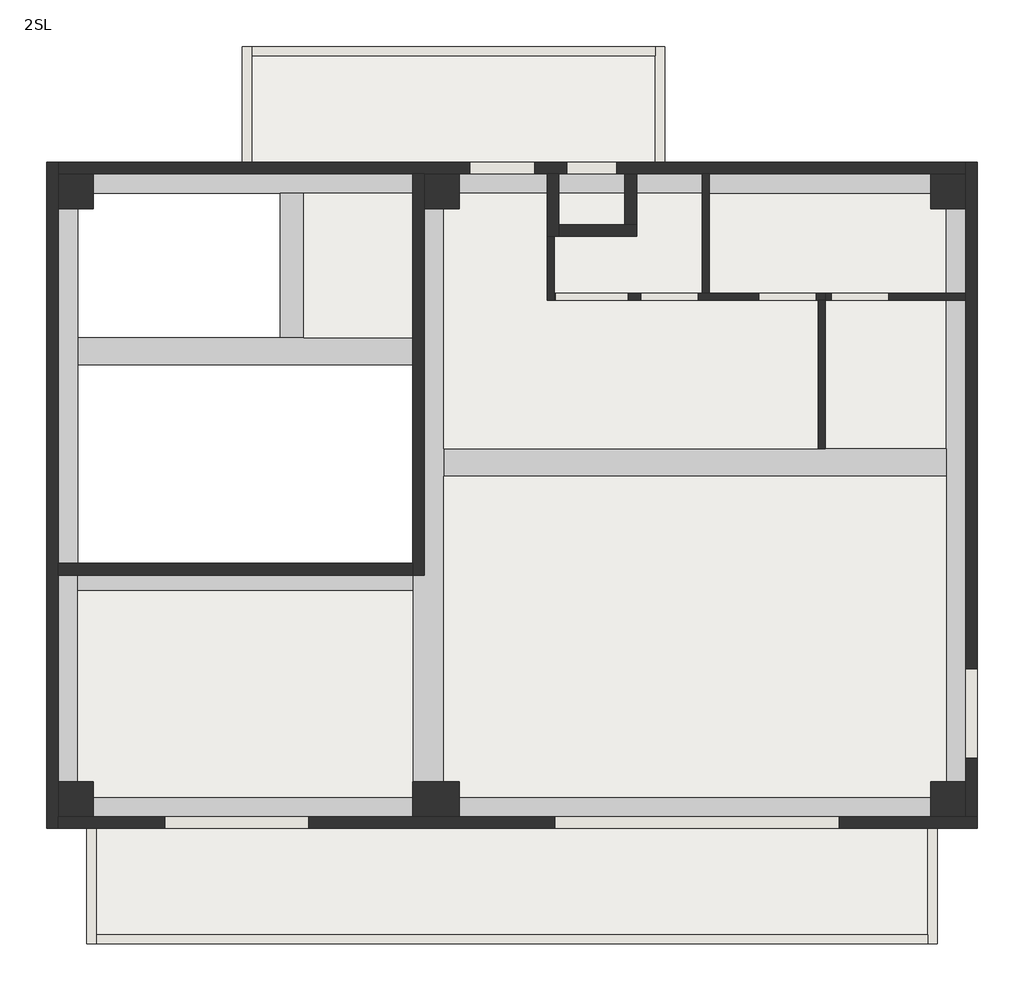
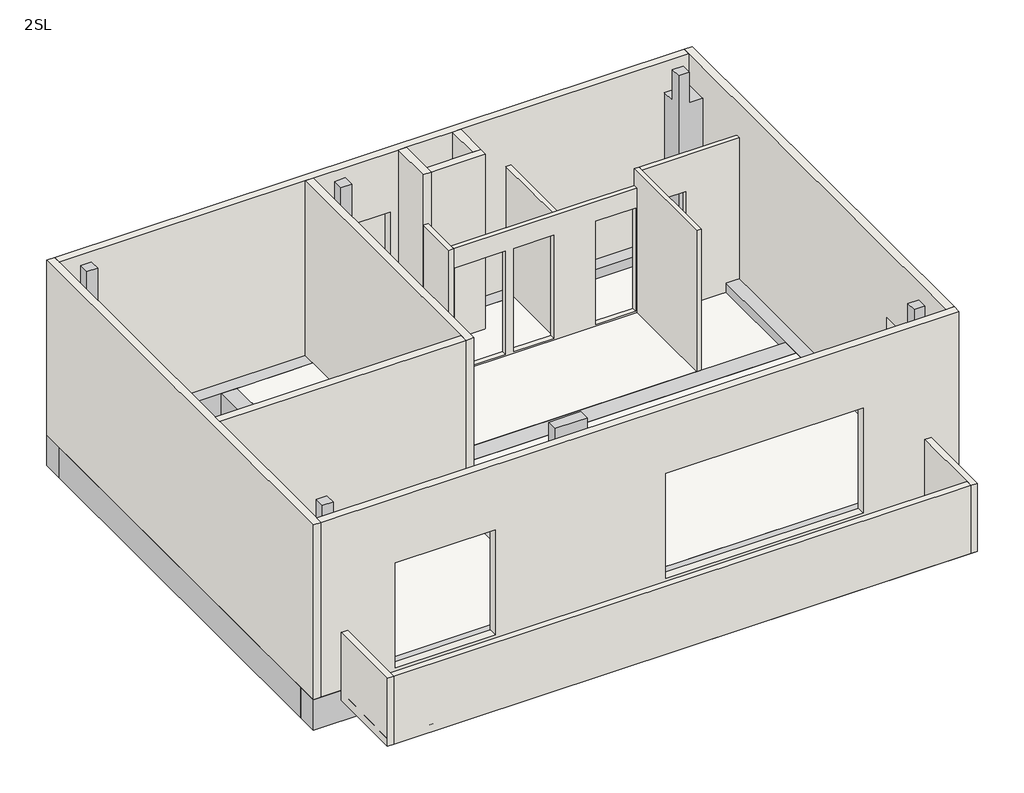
# One storey: 20 walls, 11 beams, 7 slabs, 6 columns.
"""IFC4 building model written with IfcOpenShell, lengths in millimetres."""

from ifc_helpers import new_model, si_unit, frame, origin, place, context, project, spatial, polyline, outline, extrude, faceted_brep, element, save

model = new_model("IFC4")

# Units and contexts
model_context = context("Model", 3, world=origin())
ifc_project = project(units=[si_unit("LENGTHUNIT", "METRE", prefix="MILLI")], contexts=[model_context])

# Site, building, storey
site = spatial("IfcSite", under=ifc_project)
building = spatial("IfcBuilding", under=site)
storey = spatial("IfcBuildingStorey", under=building, Name="2SL", Elevation=3120.0)

# Beams
placement = place(None, origin())
element("IfcBeam", 1, ObjectType="コンクリート-長方形梁 : B1-350x550", at=placement, inside=storey, context=model_context, shape_type="Brep", body=[
    faceted_brep([(325.0, 6225.0, 3120.0), (325.0, 5875.0, 3120.0), (4625.0, 5875.0, 3120.0), (4625.0, 6225.0, 3120.0), (3225.0, 6225.0, 3120.0), (2925.0, 6225.0, 3120.0), (325.0, 5875.0, 2570.0), (4625.0, 5875.0, 2570.0), (325.0, 6225.0, 2570.0), (4625.0, 6225.0, 2570.0)], [[[0, 1, 2, 3, 4, 5]], [[1, 6, 7, 2]], [[6, 8, 9, 7]], [[8, 0, 5, 4, 3, 9]], [[1, 0, 8, 6]], [[3, 2, 7, 9]]]),
])
element("IfcBeam", 2, ObjectType="コンクリート-長方形梁 : B1-350x550", at=placement, inside=storey, context=model_context, shape_type="SweptSolid", body=[
    extrude(outline(polyline([(325.0, 2975.0), (325.0, 3325.0), (4625.0, 3325.0), (4625.0, 2975.0), (325.0, 2975.0)])), frame((0.0, 0.0, 2570.0), z_axis=(0.0, 0.0, 1.0), x_axis=(1.0, 0.0, 0.0)), (0.0, 0.0, 1.0), 550.0),
])
element("IfcBeam", 3, ObjectType="コンクリート-長方形梁 : B1-350x550", at=placement, inside=storey, context=model_context, shape_type="SweptSolid", body=[
    extrude(outline(polyline([(11475.0, 4795.0), (11475.0, 4445.0), (5025.0, 4445.0), (5025.0, 4795.0), (11475.0, 4795.0)])), frame((0.0, 0.0, 2570.0), z_axis=(0.0, 0.0, 1.0), x_axis=(1.0, 0.0, 0.0)), (0.0, 0.0, 1.0), 550.0),
])
element("IfcBeam", 4, ObjectType="コンクリート-長方形梁 : B2-300x500", at=placement, inside=storey, context=model_context, shape_type="SweptSolid", body=[
    extrude(outline(polyline([(2925.0, 8075.0), (3225.0, 8075.0), (3225.0, 6225.0), (2925.0, 6225.0), (2925.0, 8075.0)])), frame((0.0, 0.0, 2620.0), z_axis=(0.0, 0.0, 1.0), x_axis=(1.0, 0.0, 0.0)), (0.0, 0.0, 1.0), 500.0),
])
element("IfcBeam", 5, ObjectType="コンクリート-長方形梁 : G1-400x600", at=placement, inside=storey, context=model_context, shape_type="Brep", body=[
    faceted_brep([(5025.0, -75.0, 3120.0), (5025.0, 325.0, 3120.0), (325.0, 325.0, 3120.0), (-75.0, 325.0, 3120.0), (-75.0, -75.0, 3120.0), (5025.0, -75.0, 2520.0), (-75.0, -75.0, 2520.0), (5025.0, 325.0, 2520.0), (-75.0, 325.0, 2520.0), (325.0, 325.0, 2520.0)], [[[0, 1, 2, 3, 4]], [[5, 0, 4, 6]], [[7, 5, 6, 8, 9]], [[1, 7, 9, 8, 3, 2]], [[1, 0, 5, 7]], [[4, 3, 8, 6]]]),
])
element("IfcBeam", 6, ObjectType="コンクリート-長方形梁 : G1-400x600", at=placement, inside=storey, context=model_context, shape_type="SweptSolid", body=[
    extrude(outline(polyline([(5025.0, -75.0), (5025.0, 325.0), (11475.0, 325.0), (11475.0, -75.0), (5025.0, -75.0)])), frame((0.0, 0.0, 2520.0), z_axis=(0.0, 0.0, 1.0), x_axis=(1.0, 0.0, 0.0)), (0.0, 0.0, 1.0), 600.0),
])
element("IfcBeam", 7, ObjectType="コンクリート-長方形梁 : G1-400x600", at=placement, inside=storey, context=model_context, shape_type="Brep", body=[
    faceted_brep([(11475.0, -75.0, 3120.0), (11875.0, -75.0, 3120.0), (11875.0, 8075.0, 3120.0), (11475.0, 8075.0, 3120.0), (11475.0, 325.0, 3120.0), (11875.0, -75.0, 2520.0), (11875.0, 8075.0, 2520.0), (11475.0, -75.0, 2520.0), (11475.0, 325.0, 2520.0), (11475.0, 8075.0, 2520.0)], [[[0, 1, 2, 3, 4]], [[1, 5, 6, 2]], [[5, 7, 8, 9, 6]], [[7, 0, 4, 3, 9, 8]], [[1, 0, 7, 5]], [[3, 2, 6, 9]]]),
])
element("IfcBeam", 8, ObjectType="コンクリート-長方形梁 : G1-400x600", at=placement, inside=storey, context=model_context, shape_type="Brep", body=[
    faceted_brep([(11875.0, 8075.0, 3120.0), (11875.0, 8475.0, 3120.0), (5025.0, 8475.0, 3120.0), (5025.0, 8075.0, 3120.0), (11475.0, 8075.0, 3120.0), (11875.0, 8475.0, 2520.0), (5025.0, 8475.0, 2520.0), (11875.0, 8075.0, 2520.0), (11475.0, 8075.0, 2520.0), (5025.0, 8075.0, 2520.0)], [[[0, 1, 2, 3, 4]], [[1, 5, 6, 2]], [[5, 7, 8, 9, 6]], [[7, 0, 4, 3, 9, 8]], [[1, 0, 7, 5]], [[3, 2, 6, 9]]]),
])
element("IfcBeam", 9, ObjectType="コンクリート-長方形梁 : G1-400x600", at=placement, inside=storey, context=model_context, shape_type="Brep", body=[
    faceted_brep([(-75.0, 8475.0, 3120.0), (-75.0, 8075.0, 3120.0), (325.0, 8075.0, 3120.0), (5025.0, 8075.0, 3120.0), (5025.0, 8475.0, 3120.0), (-75.0, 8475.0, 2520.0), (5025.0, 8475.0, 2520.0), (-75.0, 8075.0, 2520.0), (5025.0, 8075.0, 2520.0), (325.0, 8075.0, 2520.0)], [[[0, 1, 2, 3, 4]], [[5, 0, 4, 6]], [[7, 5, 6, 8, 9]], [[1, 7, 9, 8, 3, 2]], [[1, 0, 5, 7]], [[4, 3, 8, 6]]]),
])
element("IfcBeam", 10, ObjectType="コンクリート-長方形梁 : G1-400x600", at=placement, inside=storey, context=model_context, shape_type="SweptSolid", body=[
    extrude(outline(polyline([(325.0, 325.0), (-75.0, 325.0), (-75.0, 8075.0), (325.0, 8075.0), (325.0, 325.0)])), frame((0.0, 0.0, 2520.0), z_axis=(0.0, 0.0, 1.0), x_axis=(1.0, 0.0, 0.0)), (0.0, 0.0, 1.0), 600.0),
])
element("IfcBeam", 11, ObjectType="コンクリート-長方形梁 : G1-400x600", at=placement, inside=storey, context=model_context, shape_type="SweptSolid", body=[
    extrude(outline(polyline([(5025.0, 325.0), (4625.0, 325.0), (4625.0, 8075.0), (5025.0, 8075.0), (5025.0, 325.0)])), frame((0.0, 0.0, 2520.0), z_axis=(0.0, 0.0, 1.0), x_axis=(1.0, 0.0, 0.0)), (0.0, 0.0, 1.0), 600.0),
])

# Columns
element("IfcColumn", 12, ObjectType="角柱 : 600 x 600mm", at=placement, inside=storey, context=model_context, shape_type="Brep", body=[
    faceted_brep([(325.0, 7875.0, 6540.0), (525.0, 7875.0, 6540.0), (525.0, 8075.0, 6540.0), (325.0, 8075.0, 6540.0), (525.0, 8325.0, 3120.0), (525.0, 7875.0, 3120.0), (75.0, 7875.0, 3120.0), (75.0, 8325.0, 3120.0), (325.0, 7875.0, 5940.0), (75.0, 7875.0, 5940.0), (525.0, 8325.0, 5940.0), (525.0, 8075.0, 5940.0), (75.0, 8325.0, 5940.0), (325.0, 8075.0, 5940.0)], [[[0, 1, 2, 3]], [[4, 5, 6, 7]], [[5, 1, 0, 8, 9, 6]], [[1, 5, 4, 10, 11, 2]], [[4, 7, 12, 10]], [[7, 6, 9, 12]], [[9, 8, 13, 11, 10, 12]], [[8, 0, 3, 13]], [[11, 13, 3, 2]]]),
])
element("IfcColumn", 13, ObjectType="角柱 : 600 x 600mm", at=placement, inside=storey, context=model_context, shape_type="Brep", body=[
    faceted_brep([(525.0, 525.0, 6540.0), (325.0, 525.0, 6540.0), (325.0, 325.0, 6540.0), (525.0, 325.0, 6540.0), (75.0, 525.0, 3120.0), (525.0, 525.0, 3120.0), (525.0, 75.0, 3120.0), (75.0, 75.0, 3120.0), (525.0, 525.0, 3155.0), (75.0, 525.0, 3155.0), (75.0, 525.0, 5940.0), (325.0, 525.0, 5940.0), (525.0, 325.0, 5940.0), (525.0, 75.0, 5940.0), (525.0, 75.0, 3155.0), (75.0, 75.0, 5940.0), (325.0, 325.0, 5940.0)], [[[0, 1, 2, 3]], [[4, 5, 6, 7]], [[0, 8, 5, 4, 9, 10, 11, 1]], [[5, 8, 0, 3, 12, 13, 14, 6]], [[4, 7, 15, 10, 9]], [[7, 6, 14, 13, 15]], [[11, 10, 15, 13, 12, 16]], [[1, 11, 16, 2]], [[16, 12, 3, 2]]]),
])
element("IfcColumn", 14, ObjectType="角柱 : 600 x 600mm", at=placement, inside=storey, context=model_context, shape_type="Brep", body=[
    faceted_brep([(5225.0, 525.0, 6540.0), (5025.0, 525.0, 6540.0), (4625.0, 525.0, 6540.0), (4625.0, 325.0, 6540.0), (5025.0, 325.0, 6540.0), (5225.0, 325.0, 6540.0), (4625.0, 525.0, 3120.0), (5225.0, 525.0, 3120.0), (5225.0, 75.0, 3120.0), (4625.0, 75.0, 3120.0), (4625.0, 525.0, 5940.0), (4625.0, 75.0, 5940.0), (4625.0, 325.0, 5940.0), (5225.0, 325.0, 5940.0), (5225.0, 75.0, 5940.0), (5025.0, 325.0, 5940.0)], [[[0, 1, 2, 3, 4, 5]], [[6, 7, 8, 9]], [[2, 1, 0, 7, 6, 10]], [[2, 10, 6, 9, 11, 12, 3]], [[7, 0, 5, 13, 14, 8]], [[9, 8, 14, 11]], [[12, 11, 14, 13, 15]], [[12, 15, 13, 5, 4, 3]]]),
])
element("IfcColumn", 15, ObjectType="角柱 : 600 x 600mm", at=placement, inside=storey, context=model_context, shape_type="Brep", body=[
    faceted_brep([(11275.0, 525.0, 6540.0), (11275.0, 325.0, 6540.0), (11475.0, 325.0, 6540.0), (11475.0, 525.0, 6540.0), (11275.0, 75.0, 3120.0), (11275.0, 525.0, 3120.0), (11725.0, 525.0, 3120.0), (11725.0, 75.0, 3120.0), (11475.0, 525.0, 5940.0), (11725.0, 525.0, 5940.0), (11275.0, 75.0, 5940.0), (11275.0, 325.0, 5940.0), (11725.0, 75.0, 5940.0), (11475.0, 325.0, 5940.0)], [[[0, 1, 2, 3]], [[4, 5, 6, 7]], [[5, 0, 3, 8, 9, 6]], [[0, 5, 4, 10, 11, 1]], [[4, 7, 12, 10]], [[7, 6, 9, 12]], [[11, 10, 12, 9, 8, 13]], [[1, 11, 13, 2]], [[13, 8, 3, 2]]]),
])
element("IfcColumn", 16, ObjectType="角柱 : 600 x 600mm", at=placement, inside=storey, context=model_context, shape_type="Brep", body=[
    faceted_brep([(11275.0, 8075.0, 6540.0), (11275.0, 7875.0, 6540.0), (11475.0, 7875.0, 6540.0), (11475.0, 8075.0, 6540.0), (11725.0, 7875.0, 3120.0), (11275.0, 7875.0, 3120.0), (11275.0, 8325.0, 3120.0), (11725.0, 8325.0, 3120.0), (11275.0, 8075.0, 5940.0), (11275.0, 8325.0, 5940.0), (11725.0, 7875.0, 5940.0), (11475.0, 7875.0, 5940.0), (11725.0, 8325.0, 5940.0), (11475.0, 8075.0, 5940.0)], [[[0, 1, 2, 3]], [[4, 5, 6, 7]], [[5, 1, 0, 8, 9, 6]], [[1, 5, 4, 10, 11, 2]], [[4, 7, 12, 10]], [[7, 6, 9, 12]], [[9, 8, 13, 11, 10, 12]], [[8, 0, 3, 13]], [[11, 13, 3, 2]]]),
])
element("IfcColumn", 17, ObjectType="角柱 : 600 x 600mm", at=placement, inside=storey, context=model_context, shape_type="Brep", body=[
    faceted_brep([(5225.0, 7875.0, 6540.0), (5225.0, 8075.0, 6540.0), (5025.0, 8075.0, 6540.0), (5025.0, 7875.0, 6540.0), (5225.0, 8325.0, 3120.0), (5225.0, 7875.0, 3120.0), (4775.0, 7875.0, 3120.0), (4775.0, 8325.0, 3120.0), (5025.0, 7875.0, 5940.0), (4775.0, 7875.0, 5940.0), (5225.0, 8325.0, 5940.0), (5225.0, 8075.0, 5940.0), (4775.0, 8325.0, 5940.0), (5025.0, 8075.0, 5940.0)], [[[0, 1, 2, 3]], [[4, 5, 6, 7]], [[5, 0, 3, 8, 9, 6]], [[0, 5, 4, 10, 11, 1]], [[4, 7, 12, 10]], [[7, 6, 9, 12]], [[11, 10, 12, 9, 8, 13]], [[1, 11, 13, 2]], [[13, 8, 3, 2]]]),
])

# Slabs
element("IfcSlab", 18, ObjectType="一般180mm", at=placement, inside=storey, context=model_context, shape_type="SweptSolid", body=[
    extrude(outline(polyline([(4625.0, 2975.0), (4625.0, 325.0), (525.0, 325.0), (525.0, 525.0), (325.0, 525.0), (325.0, 2975.0), (4625.0, 2975.0)])), frame((0.0, 0.0, 2940.0), z_axis=(0.0, 0.0, 1.0), x_axis=(1.0, 0.0, 0.0)), (0.0, 0.0, 1.0), 180.0),
])
element("IfcSlab", 19, ObjectType="一般180mm", at=placement, inside=storey, context=model_context, shape_type="SweptSolid", body=[
    extrude(outline(polyline([(5025.0, 525.0), (5025.0, 4445.0), (11475.0, 4445.0), (11475.0, 525.0), (11275.0, 525.0), (11275.0, 325.0), (5225.0, 325.0), (5225.0, 525.0), (5025.0, 525.0)])), frame((0.0, 0.0, 2940.0), z_axis=(0.0, 0.0, 1.0), x_axis=(1.0, 0.0, 0.0)), (0.0, 0.0, 1.0), 180.0),
])
element("IfcSlab", 20, ObjectType="一般180mm", at=placement, inside=storey, context=model_context, shape_type="SweptSolid", body=[
    extrude(outline(polyline([(5225.0, 7875.0), (5225.0, 8075.0), (8430.0, 8075.0), (8430.0, 6795.0), (9920.0, 6795.0), (9920.0, 4795.0), (5025.0, 4795.0), (5025.0, 7875.0), (5225.0, 7875.0)])), frame((0.0, 0.0, 2940.0), z_axis=(0.0, 0.0, 1.0), x_axis=(1.0, 0.0, 0.0)), (0.0, 0.0, 1.0), 180.0),
])
element("IfcSlab", 21, ObjectType="一般180mm", at=placement, inside=storey, context=model_context, shape_type="SweptSolid", body=[
    extrude(outline(polyline([(11275.0, 7875.0), (11475.0, 7875.0), (11475.0, 4795.0), (9560.0, 4795.0), (9560.0, 6435.0), (8070.0, 6435.0), (8070.0, 8075.0), (11275.0, 8075.0), (11275.0, 7875.0)])), frame((0.0, 0.0, 2760.0), z_axis=(0.0, 0.0, 1.0), x_axis=(1.0, 0.0, 0.0)), (0.0, 0.0, 1.0), 180.0),
])
element("IfcSlab", 22, ObjectType="一般180mm", at=placement, inside=storey, context=model_context, shape_type="SweptSolid", body=[
    extrude(outline(polyline([(-75.0, 2925.0), (-1560.0, 2925.0), (-1560.0, 3075.0), (-75.0, 3105.0), (-75.0, 2925.0)])), frame((440.0, 0.0, 0.0), z_axis=(1.0, 0.0, 0.0), x_axis=(0.0, 1.0, 0.0)), (0.0, 0.0, 1.0), 10920.0),
])
element("IfcSlab", 23, ObjectType="一般180mm", at=placement, inside=storey, context=model_context, shape_type="SweptSolid", body=[
    extrude(outline(polyline([(9960.0, 2925.0), (8475.0, 2925.0), (8475.0, 3105.0), (9960.0, 3075.0), (9960.0, 2925.0)])), frame((2440.0, 0.0, 0.0), z_axis=(1.0, 0.0, 0.0), x_axis=(0.0, 1.0, 0.0)), (0.0, 0.0, 1.0), 5420.0),
])
element("IfcSlab", 24, ObjectType="一般180mm", at=placement, inside=storey, context=model_context, shape_type="SweptSolid", body=[
    extrude(outline(polyline([(3225.0, 8075.0), (4625.0, 8075.0), (4625.0, 6225.0), (3225.0, 6225.0), (3225.0, 8075.0)])), frame((0.0, 0.0, 2940.0), z_axis=(0.0, 0.0, 1.0), x_axis=(1.0, 0.0, 0.0)), (0.0, 0.0, 1.0), 180.0),
])

# Walls
element("IfcWall", 25, ObjectType="標準-120mm", at=placement, inside=storey, context=model_context, shape_type="Brep", body=[
    faceted_brep([(440.0, -75.0, 2925.0), (440.0, -1560.0, 2925.0), (440.0, -1560.0, 4255.0), (440.0, -75.0, 4255.0), (560.0, -75.0, 2925.0), (560.0, -75.0, 4255.0), (560.0, -1440.0, 4255.0), (560.0, -1560.0, 4255.0), (560.0, -1560.0, 2925.0), (560.0, -1440.0, 2925.0)], [[[0, 1, 2, 3]], [[4, 5, 6, 7, 8, 9]], [[1, 0, 4, 9, 8]], [[3, 2, 7, 6, 5]], [[2, 1, 8, 7]], [[0, 3, 5, 4]]]),
])
element("IfcWall", 26, ObjectType="標準-120mm", at=placement, inside=storey, context=model_context, shape_type="Brep", body=[
    faceted_brep([(11240.0, -75.0, 2925.0), (11240.0, -1440.0, 2925.0), (11240.0, -1560.0, 2925.0), (11240.0, -1560.0, 4255.0), (11240.0, -1440.0, 4255.0), (11240.0, -75.0, 4255.0), (11360.0, -75.0, 2925.0), (11360.0, -75.0, 4255.0), (11360.0, -1560.0, 4255.0), (11360.0, -1560.0, 2925.0)], [[[0, 1, 2, 3, 4, 5]], [[6, 7, 8, 9]], [[2, 1, 0, 6, 9]], [[5, 4, 3, 8, 7]], [[3, 2, 9, 8]], [[0, 5, 7, 6]]]),
])
element("IfcWall", 27, ObjectType="標準-120mm", at=placement, inside=storey, context=model_context, shape_type="SweptSolid", body=[
    extrude(outline(polyline([(560.0, -1440.0), (11240.0, -1440.0), (11240.0, -1560.0), (560.0, -1560.0), (560.0, -1440.0)])), frame((0.0, 0.0, 2925.0), z_axis=(0.0, 0.0, 1.0), x_axis=(1.0, 0.0, 0.0)), (0.0, 0.0, 1.0), 1330.0),
])
element("IfcWall", 28, ObjectType="標準-120mm", at=placement, inside=storey, context=model_context, shape_type="Brep", body=[
    faceted_brep([(2560.0, 8475.0, 2925.0), (2560.0, 9840.0, 2925.0), (2560.0, 9960.0, 2925.0), (2560.0, 9960.0, 4255.0), (2560.0, 9840.0, 4255.0), (2560.0, 8475.0, 4255.0), (2440.0, 8475.0, 2925.0), (2440.0, 8475.0, 4255.0), (2440.0, 9960.0, 4255.0), (2440.0, 9960.0, 2925.0)], [[[0, 1, 2, 3, 4, 5]], [[6, 7, 8, 9]], [[2, 1, 0, 6, 9]], [[5, 4, 3, 8, 7]], [[3, 2, 9, 8]], [[0, 5, 7, 6]]]),
])
element("IfcWall", 29, ObjectType="標準-120mm", at=placement, inside=storey, context=model_context, shape_type="Brep", body=[
    faceted_brep([(7860.0, 8475.0, 2925.0), (7860.0, 9960.0, 2925.0), (7860.0, 9960.0, 4255.0), (7860.0, 8475.0, 4255.0), (7740.0, 8475.0, 2925.0), (7740.0, 8475.0, 4255.0), (7740.0, 9840.0, 4255.0), (7740.0, 9960.0, 4255.0), (7740.0, 9960.0, 2925.0), (7740.0, 9840.0, 2925.0)], [[[0, 1, 2, 3]], [[4, 5, 6, 7, 8, 9]], [[1, 0, 4, 9, 8]], [[3, 2, 7, 6, 5]], [[2, 1, 8, 7]], [[0, 3, 5, 4]]]),
])
element("IfcWall", 30, ObjectType="標準-120mm", at=placement, inside=storey, context=model_context, shape_type="SweptSolid", body=[
    extrude(outline(polyline([(7740.0, 9840.0), (2560.0, 9840.0), (2560.0, 9960.0), (7740.0, 9960.0), (7740.0, 9840.0)])), frame((0.0, 0.0, 2925.0), z_axis=(0.0, 0.0, 1.0), x_axis=(1.0, 0.0, 0.0)), (0.0, 0.0, 1.0), 1330.0),
])
element("IfcWall", 31, ObjectType="標準-150mm", at=placement, inside=storey, context=model_context, shape_type="Brep", body=[
    faceted_brep([(-75.0, 8475.0, 3120.0), (-75.0, -75.0, 3120.0), (-75.0, -75.0, 6540.0), (-75.0, 8475.0, 6540.0), (75.0, 8475.0, 3120.0), (75.0, 8475.0, 6540.0), (75.0, 8325.0, 6540.0), (75.0, 3325.0, 6540.0), (75.0, 3175.0, 6540.0), (75.0, 75.0, 6540.0), (75.0, -75.0, 6540.0), (75.0, -75.0, 3120.0), (75.0, 75.0, 3120.0), (75.0, 525.0, 3120.0), (75.0, 3175.0, 3120.0), (75.0, 3325.0, 3120.0), (75.0, 7875.0, 3120.0), (75.0, 8325.0, 3120.0)], [[[0, 1, 2, 3]], [[4, 5, 6, 7, 8, 9, 10, 11, 12, 13, 14, 15, 16, 17]], [[1, 0, 4, 17, 16, 15, 14, 13, 12, 11]], [[3, 2, 10, 9, 8, 7, 6, 5]], [[2, 1, 11, 10]], [[0, 3, 5, 4]]]),
])
element("IfcWall", 32, ObjectType="標準-150mm", at=placement, inside=storey, context=model_context, shape_type="Brep", body=[
    faceted_brep([(75.0, -75.0, 3120.0), (11875.0, -75.0, 3120.0), (11875.0, -75.0, 6540.0), (75.0, -75.0, 6540.0), (10100.0, -75.0, 3215.0), (6450.0, -75.0, 3215.0), (6450.0, -75.0, 5265.0), (10100.0, -75.0, 5265.0), (1440.0, -75.0, 5265.0), (3290.0, -75.0, 5265.0), (3290.0, -75.0, 3215.0), (1440.0, -75.0, 3215.0), (75.0, 75.0, 3120.0), (75.0, 75.0, 5940.0), (75.0, 75.0, 6540.0), (11725.0, 75.0, 6540.0), (11875.0, 75.0, 6540.0), (11875.0, 75.0, 3120.0), (11725.0, 75.0, 3120.0), (11275.0, 75.0, 3120.0), (5225.0, 75.0, 3120.0), (4625.0, 75.0, 3120.0), (525.0, 75.0, 3120.0), (10100.0, 75.0, 3215.0), (10100.0, 75.0, 5265.0), (6450.0, 75.0, 5265.0), (6450.0, 75.0, 3215.0), (1440.0, 75.0, 5265.0), (1440.0, 75.0, 3215.0), (3290.0, 75.0, 3215.0), (3290.0, 75.0, 5265.0)], [[[0, 1, 2, 3], [4, 5, 6, 7], [8, 9, 10, 11]], [[12, 13, 14, 15, 16, 17, 18, 19, 20, 21, 22], [23, 24, 25, 26], [27, 28, 29, 30]], [[1, 0, 12, 22, 21, 20, 19, 18, 17]], [[3, 2, 16, 15, 14]], [[0, 3, 14, 13, 12]], [[2, 1, 17, 16]], [[24, 23, 4, 7]], [[25, 24, 7, 6]], [[26, 25, 6, 5]], [[23, 26, 5, 4]], [[28, 27, 8, 11]], [[29, 28, 11, 10]], [[30, 29, 10, 9]], [[27, 30, 9, 8]]]),
])
element("IfcWall", 33, ObjectType="標準-150mm", at=placement, inside=storey, context=model_context, shape_type="Brep", body=[
    faceted_brep([(11875.0, 75.0, 3120.0), (11875.0, 8475.0, 3120.0), (11875.0, 8475.0, 6540.0), (11875.0, 75.0, 6540.0), (11875.0, 825.0, 5230.0), (11875.0, 1975.0, 5230.0), (11875.0, 1975.0, 3980.0), (11875.0, 825.0, 3980.0), (11725.0, 75.0, 3120.0), (11725.0, 75.0, 5940.0), (11725.0, 75.0, 6540.0), (11725.0, 8325.0, 6540.0), (11725.0, 8475.0, 6540.0), (11725.0, 8475.0, 3120.0), (11725.0, 8325.0, 3120.0), (11725.0, 7875.0, 3120.0), (11725.0, 525.0, 3120.0), (11725.0, 825.0, 5230.0), (11725.0, 825.0, 3980.0), (11725.0, 1975.0, 3980.0), (11725.0, 1975.0, 5230.0)], [[[0, 1, 2, 3], [4, 5, 6, 7]], [[8, 9, 10, 11, 12, 13, 14, 15, 16], [17, 18, 19, 20]], [[1, 0, 8, 16, 15, 14, 13]], [[3, 2, 12, 11, 10]], [[0, 3, 10, 9, 8]], [[2, 1, 13, 12]], [[18, 17, 4, 7]], [[19, 18, 7, 6]], [[20, 19, 6, 5]], [[17, 20, 5, 4]]]),
])
element("IfcWall", 34, ObjectType="標準-150mm", at=placement, inside=storey, context=model_context, shape_type="Brep", body=[
    faceted_brep([(11725.0, 8475.0, 3120.0), (75.0, 8475.0, 3120.0), (75.0, 8475.0, 6540.0), (11725.0, 8475.0, 6540.0), (6195.0, 8475.0, 5375.0), (5355.0, 8475.0, 5375.0), (5355.0, 8475.0, 3155.0), (6195.0, 8475.0, 3155.0), (7245.0, 8475.0, 5375.0), (6605.0, 8475.0, 5375.0), (6605.0, 8475.0, 3155.0), (7245.0, 8475.0, 3155.0), (11725.0, 8325.0, 3120.0), (11725.0, 8325.0, 5940.0), (11725.0, 8325.0, 6540.0), (7500.0, 8325.0, 6540.0), (7350.0, 8325.0, 6540.0), (6500.0, 8325.0, 6540.0), (6350.0, 8325.0, 6540.0), (4775.0, 8325.0, 6540.0), (4625.0, 8325.0, 6540.0), (75.0, 8325.0, 6540.0), (75.0, 8325.0, 5940.0), (75.0, 8325.0, 3120.0), (525.0, 8325.0, 3120.0), (4625.0, 8325.0, 3120.0), (4775.0, 8325.0, 3120.0), (5225.0, 8325.0, 3120.0), (6350.0, 8325.0, 3120.0), (6500.0, 8325.0, 3120.0), (7350.0, 8325.0, 3120.0), (7500.0, 8325.0, 3120.0), (8340.0, 8325.0, 3120.0), (8430.0, 8325.0, 3120.0), (11275.0, 8325.0, 3120.0), (6195.0, 8325.0, 5375.0), (6195.0, 8325.0, 3155.0), (5355.0, 8325.0, 3155.0), (5355.0, 8325.0, 5375.0), (7245.0, 8325.0, 5375.0), (7245.0, 8325.0, 3155.0), (6605.0, 8325.0, 3155.0), (6605.0, 8325.0, 5375.0)], [[[0, 1, 2, 3], [4, 5, 6, 7], [8, 9, 10, 11]], [[12, 13, 14, 15, 16, 17, 18, 19, 20, 21, 22, 23, 24, 25, 26, 27, 28, 29, 30, 31, 32, 33, 34], [35, 36, 37, 38], [39, 40, 41, 42]], [[1, 0, 12, 34, 33, 32, 31, 30, 29, 28, 27, 26, 25, 24, 23]], [[3, 2, 21, 20, 19, 18, 17, 16, 15, 14]], [[0, 3, 14, 13, 12]], [[2, 1, 23, 22, 21]], [[36, 35, 4, 7]], [[37, 36, 7, 6]], [[38, 37, 6, 5]], [[35, 38, 5, 4]], [[40, 39, 8, 11]], [[41, 40, 11, 10]], [[42, 41, 10, 9]], [[39, 42, 9, 8]]]),
])
element("IfcWall", 35, ObjectType="標準-150mm", at=placement, inside=storey, context=model_context, shape_type="Brep", body=[
    faceted_brep([(4625.0, 8325.0, 3120.0), (4625.0, 3325.0, 3120.0), (4625.0, 3175.0, 3120.0), (4625.0, 3175.0, 6540.0), (4625.0, 3325.0, 6540.0), (4625.0, 8325.0, 6540.0), (4775.0, 8325.0, 3120.0), (4775.0, 8325.0, 5940.0), (4775.0, 8325.0, 6540.0), (4775.0, 3175.0, 6540.0), (4775.0, 3175.0, 3120.0), (4775.0, 7875.0, 3120.0)], [[[0, 1, 2, 3, 4, 5]], [[6, 7, 8, 9, 10, 11]], [[2, 1, 0, 6, 11, 10]], [[5, 4, 3, 9, 8]], [[2, 10, 9, 3]], [[0, 5, 8, 7, 6]]]),
])
element("IfcWall", 36, ObjectType="標準-150mm", at=placement, inside=storey, context=model_context, shape_type="SweptSolid", body=[
    extrude(outline(polyline([(75.0, 3325.0), (4625.0, 3325.0), (4625.0, 3175.0), (75.0, 3175.0), (75.0, 3325.0)])), frame((0.0, 0.0, 3120.0), z_axis=(0.0, 0.0, 1.0), x_axis=(1.0, 0.0, 0.0)), (0.0, 0.0, 1.0), 3420.0),
])
element("IfcWall", 37, ObjectType="標準-150mm", at=placement, inside=storey, context=model_context, shape_type="Brep", body=[
    faceted_brep([(6350.0, 8325.0, 3120.0), (6350.0, 7525.0, 3120.0), (6350.0, 7525.0, 6540.0), (6350.0, 8325.0, 6540.0), (6500.0, 8325.0, 3120.0), (6500.0, 8325.0, 6540.0), (6500.0, 7675.0, 6540.0), (6500.0, 7525.0, 6540.0), (6500.0, 7525.0, 3120.0), (6500.0, 7675.0, 3120.0), (6440.0, 7525.0, 3120.0)], [[[0, 1, 2, 3]], [[4, 5, 6, 7, 8, 9]], [[1, 0, 4, 9, 8, 10]], [[3, 2, 7, 6, 5]], [[0, 3, 5, 4]], [[1, 10, 8, 7, 2]]]),
])
element("IfcWall", 38, ObjectType="標準-150mm", at=placement, inside=storey, context=model_context, shape_type="Brep", body=[
    faceted_brep([(6500.0, 7525.0, 6540.0), (6500.0, 7525.0, 3120.0), (7500.0, 7525.0, 3120.0), (7500.0, 7525.0, 3155.0), (7500.0, 7525.0, 5555.0), (7500.0, 7525.0, 6540.0), (6500.0, 7675.0, 3120.0), (6500.0, 7675.0, 6540.0), (7350.0, 7675.0, 6540.0), (7500.0, 7675.0, 6540.0), (7500.0, 7675.0, 3120.0), (7350.0, 7675.0, 3120.0)], [[[0, 1, 2, 3, 4, 5]], [[6, 7, 8, 9, 10, 11]], [[2, 1, 6, 11, 10]], [[0, 5, 9, 8, 7]], [[2, 10, 9, 5, 4, 3]], [[0, 7, 6, 1]]]),
])
element("IfcWall", 39, ObjectType="標準-150mm", at=placement, inside=storey, context=model_context, shape_type="SweptSolid", body=[
    extrude(outline(polyline([(7500.0, 8325.0), (7500.0, 7675.0), (7350.0, 7675.0), (7350.0, 8325.0), (7500.0, 8325.0)])), frame((0.0, 0.0, 3120.0), z_axis=(0.0, 0.0, 1.0), x_axis=(1.0, 0.0, 0.0)), (0.0, 0.0, 1.0), 3420.0),
])
element("IfcWall", 40, ObjectType="標準-90mm", at=placement, inside=storey, context=model_context, shape_type="Brep", body=[
    faceted_brep([(6350.0, 7525.0, 3120.0), (6350.0, 6705.0, 3120.0), (6350.0, 6705.0, 5555.0), (6350.0, 7525.0, 5555.0), (6440.0, 7525.0, 3120.0), (6440.0, 7525.0, 5555.0), (6440.0, 6795.0, 5555.0), (6440.0, 6705.0, 5555.0), (6440.0, 6705.0, 3120.0), (6440.0, 6795.0, 3120.0)], [[[0, 1, 2, 3]], [[4, 5, 6, 7, 8, 9]], [[1, 0, 4, 9, 8]], [[3, 2, 7, 6, 5]], [[2, 1, 8, 7]], [[0, 3, 5, 4]]]),
])
element("IfcWall", 41, ObjectType="標準-90mm", at=placement, inside=storey, context=model_context, shape_type="Brep", body=[
    faceted_brep([(6440.0, 6705.0, 3120.0), (9830.0, 6705.0, 3120.0), (9920.0, 6705.0, 3120.0), (9920.0, 6705.0, 5555.0), (9830.0, 6705.0, 5555.0), (6440.0, 6705.0, 5555.0), (6455.0, 6705.0, 5175.0), (7395.0, 6705.0, 5175.0), (7395.0, 6705.0, 3155.0), (6455.0, 6705.0, 3155.0), (8290.0, 6705.0, 5175.0), (8290.0, 6705.0, 3155.0), (7550.0, 6705.0, 3155.0), (7550.0, 6705.0, 5175.0), (9805.0, 6705.0, 5175.0), (9805.0, 6705.0, 3155.0), (9065.0, 6705.0, 3155.0), (9065.0, 6705.0, 5175.0), (6440.0, 6795.0, 3120.0), (6440.0, 6795.0, 5555.0), (7410.0, 6795.0, 5555.0), (7500.0, 6795.0, 5555.0), (8830.0, 6795.0, 5555.0), (8920.0, 6795.0, 5555.0), (9830.0, 6795.0, 5555.0), (9920.0, 6795.0, 5555.0), (9920.0, 6795.0, 3120.0), (8430.0, 6795.0, 3120.0), (8340.0, 6795.0, 3120.0), (6455.0, 6795.0, 5175.0), (6455.0, 6795.0, 3155.0), (7395.0, 6795.0, 3155.0), (7395.0, 6795.0, 5175.0), (8290.0, 6795.0, 5175.0), (7550.0, 6795.0, 5175.0), (7550.0, 6795.0, 3155.0), (8290.0, 6795.0, 3155.0), (9805.0, 6795.0, 5175.0), (9065.0, 6795.0, 5175.0), (9065.0, 6795.0, 3155.0), (9805.0, 6795.0, 3155.0)], [[[0, 1, 2, 3, 4, 5], [6, 7, 8, 9], [10, 11, 12, 13], [14, 15, 16, 17]], [[18, 19, 20, 21, 22, 23, 24, 25, 26, 27, 28], [29, 30, 31, 32], [33, 34, 35, 36], [37, 38, 39, 40]], [[2, 1, 0, 18, 28, 27, 26]], [[5, 4, 3, 25, 24, 23, 22, 21, 20, 19]], [[0, 5, 19, 18]], [[3, 2, 26, 25]], [[30, 29, 6, 9]], [[31, 30, 9, 8]], [[32, 31, 8, 7]], [[29, 32, 7, 6]], [[11, 10, 33, 36]], [[12, 11, 36, 35]], [[13, 12, 35, 34]], [[10, 13, 34, 33]], [[15, 14, 37, 40]], [[16, 15, 40, 39]], [[17, 16, 39, 38]], [[14, 17, 38, 37]]]),
])
element("IfcWall", 42, ObjectType="標準-90mm", at=placement, inside=storey, context=model_context, shape_type="SweptSolid", body=[
    extrude(outline(polyline([(8430.0, 8325.0), (8430.0, 6795.0), (8340.0, 6795.0), (8340.0, 8325.0), (8430.0, 8325.0)])), frame((0.0, 0.0, 3120.0), z_axis=(0.0, 0.0, 1.0), x_axis=(1.0, 0.0, 0.0)), (0.0, 0.0, 1.0), 2400.0),
])
element("IfcWall", 43, ObjectType="標準-90mm", at=placement, inside=storey, context=model_context, shape_type="Brep", body=[
    faceted_brep([(9830.0, 6705.0, 3120.0), (9830.0, 4795.0, 3120.0), (9830.0, 4795.0, 5880.0), (9830.0, 6795.0, 5880.0), (9830.0, 6795.0, 5555.0), (9830.0, 6705.0, 5555.0), (9920.0, 6705.0, 3120.0), (9920.0, 6705.0, 5555.0), (9920.0, 6795.0, 5555.0), (9920.0, 6795.0, 5880.0), (9920.0, 6705.0, 5880.0), (9920.0, 4795.0, 5880.0), (9920.0, 4795.0, 3120.0)], [[[0, 1, 2, 3, 4, 5]], [[6, 7, 8, 9, 10, 11, 12]], [[1, 0, 6, 12]], [[3, 2, 11, 10, 9]], [[2, 1, 12, 11]], [[4, 8, 7, 5]], [[0, 5, 7, 6]], [[4, 3, 9, 8]]]),
])
element("IfcWall", 44, ObjectType="標準-90mm", at=placement, inside=storey, context=model_context, shape_type="Brep", body=[
    faceted_brep([(9920.0, 6705.0, 2940.0), (11725.0, 6705.0, 2940.0), (11725.0, 6705.0, 5880.0), (9920.0, 6705.0, 5880.0), (9920.0, 6705.0, 5555.0), (9920.0, 6705.0, 3120.0), (9995.0, 6705.0, 5175.0), (10735.0, 6705.0, 5175.0), (10735.0, 6705.0, 3155.0), (9995.0, 6705.0, 3155.0), (9920.0, 6795.0, 2940.0), (9920.0, 6795.0, 3120.0), (9920.0, 6795.0, 5555.0), (9920.0, 6795.0, 5880.0), (11725.0, 6795.0, 5880.0), (11725.0, 6795.0, 2940.0), (9995.0, 6795.0, 5175.0), (9995.0, 6795.0, 3155.0), (10735.0, 6795.0, 3155.0), (10735.0, 6795.0, 5175.0)], [[[0, 1, 2, 3, 4, 5], [6, 7, 8, 9]], [[10, 11, 12, 13, 14, 15], [16, 17, 18, 19]], [[1, 0, 10, 15]], [[3, 2, 14, 13]], [[1, 15, 14, 2]], [[0, 5, 4, 3, 13, 12, 11, 10]], [[17, 16, 6, 9]], [[18, 17, 9, 8]], [[19, 18, 8, 7]], [[16, 19, 7, 6]]]),
])

save(model, "model.ifc")
